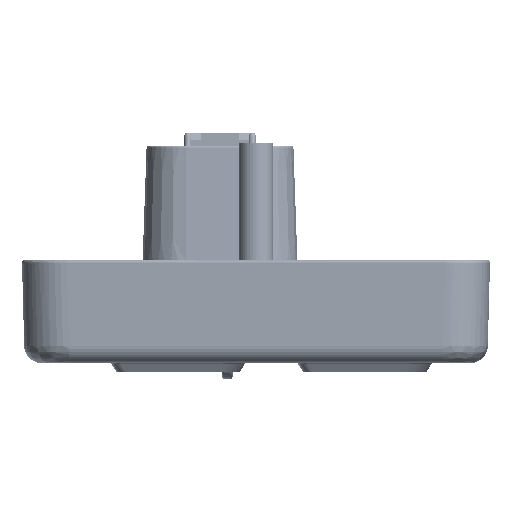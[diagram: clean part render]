
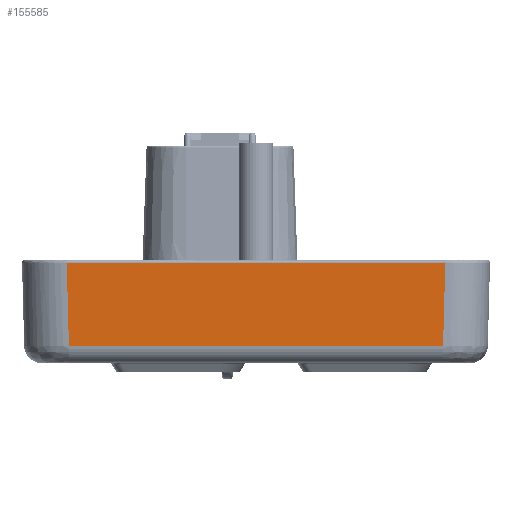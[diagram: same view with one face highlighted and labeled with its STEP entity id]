
A CAD part, left-side view. The second image highlights one B-rep face of the part: STEP entity #155585.
In plain terms, the highlighted planar face has unit normal (-1, 0, -0.026) as drawn and (1, 0, 0.026) by its records, which use the part's own axes.
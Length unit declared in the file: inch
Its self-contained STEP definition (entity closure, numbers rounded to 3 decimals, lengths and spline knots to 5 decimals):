
#15165 = EDGE_CURVE ( 'NONE', #113696, #154332, #124277, .T. ) ;
#21950 = DIRECTION ( 'NONE',  ( -0.026, -0.026, 0.999 ) ) ;
#38559 = DIRECTION ( 'NONE',  ( 0., -1., 0. ) ) ;
#50357 = AXIS2_PLACEMENT_3D ( 'NONE', #70234, #136715, #84460 ) ;
#54766 = EDGE_LOOP ( 'NONE', ( #103986, #59984, #182274, #179894 ) ) ;
#57783 = CARTESIAN_POINT ( 'NONE',  ( 2.32338, 1.05597, 0.07645 ) ) ;
#59984 = ORIENTED_EDGE ( 'NONE', *, *, #108940, .T. ) ;
#70234 = CARTESIAN_POINT ( 'NONE',  ( 2.325, -1.3075, 0.0146 ) ) ;
#74703 = DIRECTION ( 'NONE',  ( 0.026, -0.026, -0.999 ) ) ;
#80025 = VECTOR ( 'NONE', #38559, 39.37008 ) ;
#81542 = EDGE_CURVE ( 'NONE', #154332, #87664, #85479, .T. ) ;
#84460 = DIRECTION ( 'NONE',  ( 0.026, 0., -1. ) ) ;
#85479 = LINE ( 'NONE', #120287, #80025 ) ;
#87664 = VERTEX_POINT ( 'NONE', #189467 ) ;
#98650 = PLANE ( 'NONE',  #50357 ) ;
#102547 = CARTESIAN_POINT ( 'NONE',  ( 2.3246, -1.05718, 0.02993 ) ) ;
#103504 = CARTESIAN_POINT ( 'NONE',  ( 2.32461, 1.05719, 0.02965 ) ) ;
#103986 = ORIENTED_EDGE ( 'NONE', *, *, #207362, .T. ) ;
#106999 = VECTOR ( 'NONE', #182825, 39.37008 ) ;
#108940 = EDGE_CURVE ( 'NONE', #159959, #113696, #116325, .T. ) ;
#109099 = VECTOR ( 'NONE', #21950, 39.37008 ) ;
#113696 = VERTEX_POINT ( 'NONE', #103504 ) ;
#116325 = LINE ( 'NONE', #131634, #106999 ) ;
#120287 = CARTESIAN_POINT ( 'NONE',  ( 2.31247, -1.0425, 0.49322 ) ) ;
#124277 = LINE ( 'NONE', #57783, #109099 ) ;
#126540 = CARTESIAN_POINT ( 'NONE',  ( 2.31247, 1.04505, 0.49322 ) ) ;
#131634 = CARTESIAN_POINT ( 'NONE',  ( 2.32461, -1.3075, 0.02965 ) ) ;
#136715 = DIRECTION ( 'NONE',  ( 1., 0., 0.026 ) ) ;
#154332 = VERTEX_POINT ( 'NONE', #126540 ) ;
#155585 = ADVANCED_FACE ( 'NONE', ( #181484 ), #98650, .T. ) ;
#157517 = CARTESIAN_POINT ( 'NONE',  ( 2.32517, -1.05776, 0.00806 ) ) ;
#158596 = LINE ( 'NONE', #157517, #175301 ) ;
#159959 = VERTEX_POINT ( 'NONE', #102547 ) ;
#175301 = VECTOR ( 'NONE', #74703, 39.37008 ) ;
#179894 = ORIENTED_EDGE ( 'NONE', *, *, #81542, .T. ) ;
#181484 = FACE_OUTER_BOUND ( 'NONE', #54766, .T. ) ;
#182274 = ORIENTED_EDGE ( 'NONE', *, *, #15165, .T. ) ;
#182825 = DIRECTION ( 'NONE',  ( 0., 1., 0. ) ) ;
#189467 = CARTESIAN_POINT ( 'NONE',  ( 2.31247, -1.04505, 0.49322 ) ) ;
#207362 = EDGE_CURVE ( 'NONE', #87664, #159959, #158596, .T. ) ;
